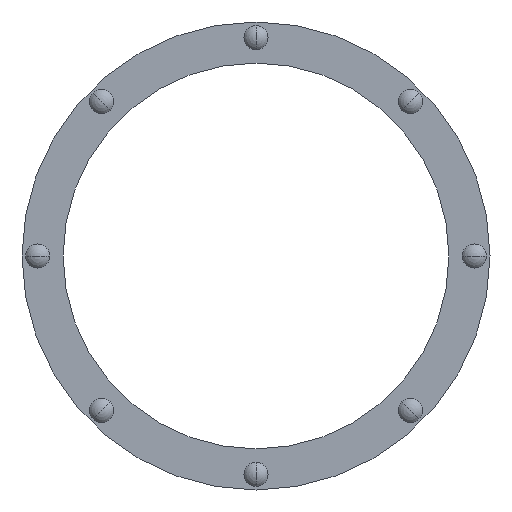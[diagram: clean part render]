
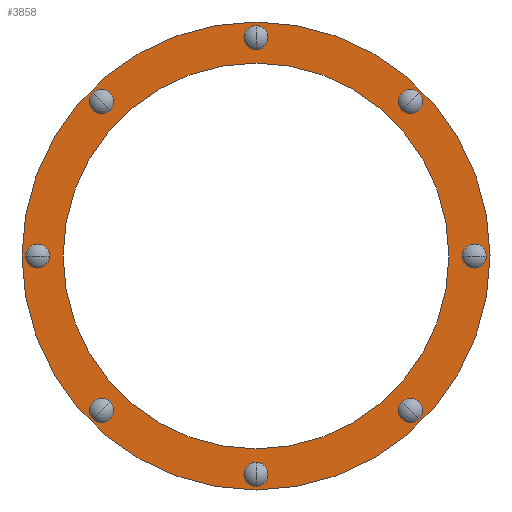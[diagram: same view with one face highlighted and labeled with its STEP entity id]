
A CAD part, front view. The second image highlights one B-rep face of the part: STEP entity #3858.
In plain terms, the highlighted planar face has unit normal (0, -1, 0).
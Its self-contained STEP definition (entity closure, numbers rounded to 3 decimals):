
#1223=CARTESIAN_POINT('',(-163.872,-92.,163.872));
#1224=DIRECTION('',(0.,1.,0.));
#1225=DIRECTION('',(-0.707,0.,0.707));
#1226=AXIS2_PLACEMENT_3D('',#1223,#1224,#1225);
#1228=CARTESIAN_POINT('',(-163.872,-92.,163.872));
#1229=DIRECTION('',(0.,1.,0.));
#1230=DIRECTION('',(0.707,0.,-0.707));
#1231=AXIS2_PLACEMENT_3D('',#1228,#1229,#1230);
#1233=CARTESIAN_POINT('',(0.,-92.,231.75));
#1234=DIRECTION('',(0.,1.,0.));
#1235=DIRECTION('',(0.,0.,1.));
#1236=AXIS2_PLACEMENT_3D('',#1233,#1234,#1235);
#1238=CARTESIAN_POINT('',(0.,-92.,231.75));
#1239=DIRECTION('',(0.,1.,0.));
#1240=DIRECTION('',(0.,0.,-1.));
#1241=AXIS2_PLACEMENT_3D('',#1238,#1239,#1240);
#1243=CARTESIAN_POINT('',(163.872,-92.,163.872));
#1244=DIRECTION('',(0.,1.,0.));
#1245=DIRECTION('',(0.707,0.,0.707));
#1246=AXIS2_PLACEMENT_3D('',#1243,#1244,#1245);
#1248=CARTESIAN_POINT('',(163.872,-92.,163.872));
#1249=DIRECTION('',(0.,1.,0.));
#1250=DIRECTION('',(-0.707,0.,-0.707));
#1251=AXIS2_PLACEMENT_3D('',#1248,#1249,#1250);
#1253=CARTESIAN_POINT('',(231.75,-92.,0.));
#1254=DIRECTION('',(0.,1.,0.));
#1255=DIRECTION('',(1.,0.,0.));
#1256=AXIS2_PLACEMENT_3D('',#1253,#1254,#1255);
#1258=CARTESIAN_POINT('',(231.75,-92.,0.));
#1259=DIRECTION('',(0.,1.,0.));
#1260=DIRECTION('',(-1.,0.,0.));
#1261=AXIS2_PLACEMENT_3D('',#1258,#1259,#1260);
#1263=CARTESIAN_POINT('',(163.872,-92.,-163.872));
#1264=DIRECTION('',(0.,1.,0.));
#1265=DIRECTION('',(0.707,0.,-0.707));
#1266=AXIS2_PLACEMENT_3D('',#1263,#1264,#1265);
#1268=CARTESIAN_POINT('',(163.872,-92.,-163.872));
#1269=DIRECTION('',(0.,1.,0.));
#1270=DIRECTION('',(-0.707,0.,0.707));
#1271=AXIS2_PLACEMENT_3D('',#1268,#1269,#1270);
#1273=CARTESIAN_POINT('',(0.,-92.,-231.75));
#1274=DIRECTION('',(0.,1.,0.));
#1275=DIRECTION('',(0.,0.,-1.));
#1276=AXIS2_PLACEMENT_3D('',#1273,#1274,#1275);
#1278=CARTESIAN_POINT('',(0.,-92.,-231.75));
#1279=DIRECTION('',(0.,1.,0.));
#1280=DIRECTION('',(0.,0.,1.));
#1281=AXIS2_PLACEMENT_3D('',#1278,#1279,#1280);
#1283=CARTESIAN_POINT('',(-163.872,-92.,-163.872));
#1284=DIRECTION('',(0.,1.,0.));
#1285=DIRECTION('',(-0.707,0.,-0.707));
#1286=AXIS2_PLACEMENT_3D('',#1283,#1284,#1285);
#1288=CARTESIAN_POINT('',(-163.872,-92.,-163.872));
#1289=DIRECTION('',(0.,1.,0.));
#1290=DIRECTION('',(0.707,0.,0.707));
#1291=AXIS2_PLACEMENT_3D('',#1288,#1289,#1290);
#1293=CARTESIAN_POINT('',(-231.75,-92.,0.));
#1294=DIRECTION('',(0.,1.,0.));
#1295=DIRECTION('',(-1.,0.,0.));
#1296=AXIS2_PLACEMENT_3D('',#1293,#1294,#1295);
#1298=CARTESIAN_POINT('',(-231.75,-92.,0.));
#1299=DIRECTION('',(0.,1.,0.));
#1300=DIRECTION('',(1.,0.,0.));
#1301=AXIS2_PLACEMENT_3D('',#1298,#1299,#1300);
#1303=CARTESIAN_POINT('',(0.,-92.,0.));
#1304=DIRECTION('',(0.,1.,0.));
#1305=DIRECTION('',(-0.5,0.,0.866));
#1306=AXIS2_PLACEMENT_3D('',#1303,#1304,#1305);
#1308=CARTESIAN_POINT('',(0.,-92.,0.));
#1309=DIRECTION('',(0.,1.,0.));
#1310=DIRECTION('',(-0.866,0.,0.5));
#1311=AXIS2_PLACEMENT_3D('',#1308,#1309,#1310);
#1321=CARTESIAN_POINT('',(0.,-92.,0.));
#1322=DIRECTION('',(0.,1.,0.));
#1323=DIRECTION('',(-0.5,0.,0.866));
#1324=AXIS2_PLACEMENT_3D('',#1321,#1322,#1323);
#1326=CARTESIAN_POINT('',(0.,-92.,0.));
#1327=DIRECTION('',(0.,1.,0.));
#1328=DIRECTION('',(-0.866,0.,0.5));
#1329=AXIS2_PLACEMENT_3D('',#1326,#1327,#1328);
#2712=CARTESIAN_POINT('',(-244.5,-92.,0.));
#2713=CARTESIAN_POINT('',(-219.,-92.,0.));
#2714=VERTEX_POINT('',#2712);
#2715=VERTEX_POINT('',#2713);
#2770=CARTESIAN_POINT('',(-172.888,-92.,-172.888));
#2771=CARTESIAN_POINT('',(-154.856,-92.,-154.856));
#2772=VERTEX_POINT('',#2770);
#2773=VERTEX_POINT('',#2771);
#2828=CARTESIAN_POINT('',(0.,-92.,-244.5));
#2829=CARTESIAN_POINT('',(0.,-92.,-219.));
#2830=VERTEX_POINT('',#2828);
#2831=VERTEX_POINT('',#2829);
#2886=CARTESIAN_POINT('',(172.888,-92.,-172.888));
#2887=CARTESIAN_POINT('',(154.856,-92.,-154.856));
#2888=VERTEX_POINT('',#2886);
#2889=VERTEX_POINT('',#2887);
#2944=CARTESIAN_POINT('',(244.5,-92.,0.));
#2945=CARTESIAN_POINT('',(219.,-92.,0.));
#2946=VERTEX_POINT('',#2944);
#2947=VERTEX_POINT('',#2945);
#3002=CARTESIAN_POINT('',(172.888,-92.,172.888));
#3003=CARTESIAN_POINT('',(154.856,-92.,154.856));
#3004=VERTEX_POINT('',#3002);
#3005=VERTEX_POINT('',#3003);
#3060=CARTESIAN_POINT('',(0.,-92.,244.5));
#3061=CARTESIAN_POINT('',(0.,-92.,219.));
#3062=VERTEX_POINT('',#3060);
#3063=VERTEX_POINT('',#3061);
#3118=CARTESIAN_POINT('',(-172.888,-92.,172.888));
#3119=CARTESIAN_POINT('',(-154.856,-92.,154.856));
#3120=VERTEX_POINT('',#3118);
#3121=VERTEX_POINT('',#3119);
#3134=CARTESIAN_POINT('',(-215.077,-92.,124.175));
#3135=VERTEX_POINT('',#3134);
#3136=CARTESIAN_POINT('',(-177.319,-92.,102.375));
#3138=VERTEX_POINT('',#3136);
#3162=CARTESIAN_POINT('',(-124.175,-92.,215.077));
#3163=VERTEX_POINT('',#3162);
#3164=CARTESIAN_POINT('',(-102.375,-92.,177.319));
#3166=VERTEX_POINT('',#3164);
#3795=CARTESIAN_POINT('',(0.,-92.,0.));
#3796=DIRECTION('',(0.,1.,0.));
#3797=DIRECTION('',(0.866,0.,0.5));
#3798=AXIS2_PLACEMENT_3D('',#3795,#3796,#3797);
#3799=PLANE('',#3798);
#3800=ORIENTED_EDGE('',*,*,#3774,.T.);
#3801=ORIENTED_EDGE('',*,*,#3790,.T.);
#3802=EDGE_LOOP('',(#3800,#3801));
#3803=FACE_OUTER_BOUND('',#3802,.F.);
#3805=ORIENTED_EDGE('',*,*,#3804,.F.);
#3807=ORIENTED_EDGE('',*,*,#3806,.F.);
#3808=EDGE_LOOP('',(#3805,#3807));
#3809=FACE_BOUND('',#3808,.F.);
#3811=ORIENTED_EDGE('',*,*,#3810,.F.);
#3813=ORIENTED_EDGE('',*,*,#3812,.F.);
#3814=EDGE_LOOP('',(#3811,#3813));
#3815=FACE_BOUND('',#3814,.F.);
#3817=ORIENTED_EDGE('',*,*,#3816,.F.);
#3819=ORIENTED_EDGE('',*,*,#3818,.F.);
#3820=EDGE_LOOP('',(#3817,#3819));
#3821=FACE_BOUND('',#3820,.F.);
#3823=ORIENTED_EDGE('',*,*,#3822,.F.);
#3825=ORIENTED_EDGE('',*,*,#3824,.F.);
#3826=EDGE_LOOP('',(#3823,#3825));
#3827=FACE_BOUND('',#3826,.F.);
#3829=ORIENTED_EDGE('',*,*,#3828,.F.);
#3831=ORIENTED_EDGE('',*,*,#3830,.F.);
#3832=EDGE_LOOP('',(#3829,#3831));
#3833=FACE_BOUND('',#3832,.F.);
#3835=ORIENTED_EDGE('',*,*,#3834,.F.);
#3837=ORIENTED_EDGE('',*,*,#3836,.F.);
#3838=EDGE_LOOP('',(#3835,#3837));
#3839=FACE_BOUND('',#3838,.F.);
#3841=ORIENTED_EDGE('',*,*,#3840,.F.);
#3843=ORIENTED_EDGE('',*,*,#3842,.F.);
#3844=EDGE_LOOP('',(#3841,#3843));
#3845=FACE_BOUND('',#3844,.F.);
#3847=ORIENTED_EDGE('',*,*,#3846,.F.);
#3849=ORIENTED_EDGE('',*,*,#3848,.F.);
#3850=EDGE_LOOP('',(#3847,#3849));
#3851=FACE_BOUND('',#3850,.F.);
#3853=ORIENTED_EDGE('',*,*,#3852,.F.);
#3855=ORIENTED_EDGE('',*,*,#3854,.F.);
#3856=EDGE_LOOP('',(#3853,#3855));
#3857=FACE_BOUND('',#3856,.F.);
#3858=ADVANCED_FACE('',(#3803,#3809,#3815,#3821,#3827,#3833,#3839,#3845,#3851,
#3857),#3799,.F.);
#1227=CIRCLE('',#1226,12.75);
#1232=CIRCLE('',#1231,12.75);
#1237=CIRCLE('',#1236,12.75);
#1242=CIRCLE('',#1241,12.75);
#1247=CIRCLE('',#1246,12.75);
#1252=CIRCLE('',#1251,12.75);
#1257=CIRCLE('',#1256,12.75);
#1262=CIRCLE('',#1261,12.75);
#1267=CIRCLE('',#1266,12.75);
#1272=CIRCLE('',#1271,12.75);
#1277=CIRCLE('',#1276,12.75);
#1282=CIRCLE('',#1281,12.75);
#1287=CIRCLE('',#1286,12.75);
#1292=CIRCLE('',#1291,12.75);
#1297=CIRCLE('',#1296,12.75);
#1302=CIRCLE('',#1301,12.75);
#1307=CIRCLE('',#1306,248.35);
#1312=CIRCLE('',#1311,248.35);
#1325=CIRCLE('',#1324,204.75);
#1330=CIRCLE('',#1329,204.75);
#3774=EDGE_CURVE('',#3163,#3135,#1307,.T.);
#3790=EDGE_CURVE('',#3135,#3163,#1312,.T.);
#3804=EDGE_CURVE('',#3120,#3121,#1227,.T.);
#3806=EDGE_CURVE('',#3121,#3120,#1232,.T.);
#3810=EDGE_CURVE('',#3062,#3063,#1237,.T.);
#3812=EDGE_CURVE('',#3063,#3062,#1242,.T.);
#3816=EDGE_CURVE('',#3004,#3005,#1247,.T.);
#3818=EDGE_CURVE('',#3005,#3004,#1252,.T.);
#3822=EDGE_CURVE('',#2946,#2947,#1257,.T.);
#3824=EDGE_CURVE('',#2947,#2946,#1262,.T.);
#3828=EDGE_CURVE('',#2888,#2889,#1267,.T.);
#3830=EDGE_CURVE('',#2889,#2888,#1272,.T.);
#3834=EDGE_CURVE('',#2830,#2831,#1277,.T.);
#3836=EDGE_CURVE('',#2831,#2830,#1282,.T.);
#3840=EDGE_CURVE('',#2772,#2773,#1287,.T.);
#3842=EDGE_CURVE('',#2773,#2772,#1292,.T.);
#3846=EDGE_CURVE('',#2714,#2715,#1297,.T.);
#3848=EDGE_CURVE('',#2715,#2714,#1302,.T.);
#3852=EDGE_CURVE('',#3166,#3138,#1325,.T.);
#3854=EDGE_CURVE('',#3138,#3166,#1330,.T.);
